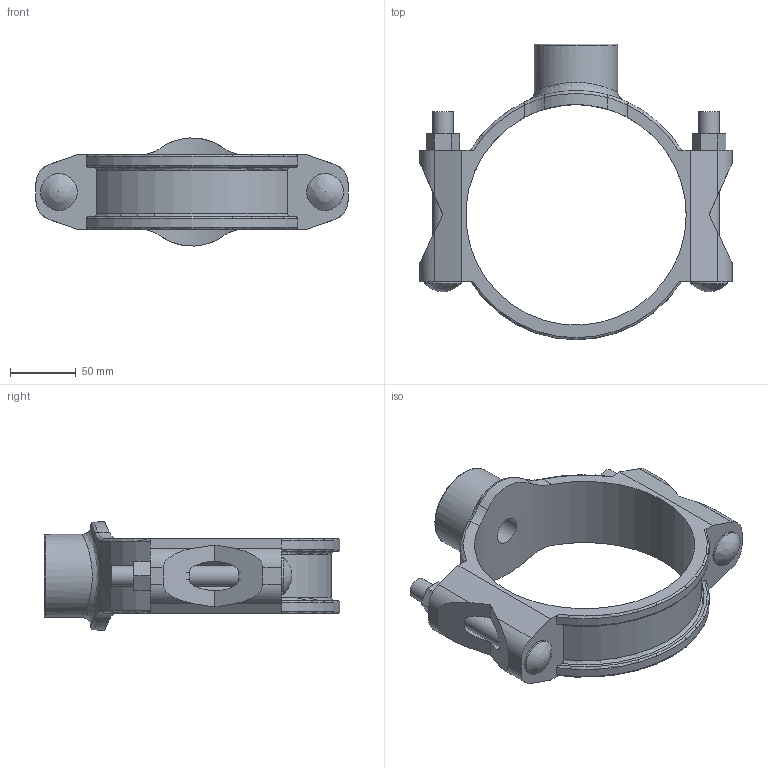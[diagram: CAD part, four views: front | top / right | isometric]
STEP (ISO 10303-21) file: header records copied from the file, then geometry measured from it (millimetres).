
FILE_DESCRIPTION(/* description */ ('VIC SS MECHANICAL T BRANCH OUTLET STYLE 422 (BSPT)','CAx-IF Rec.Pracs.---Representation and Presentation of Product Manufacturing Information (PMI)---4.0---2014-10-13'),/* implementation_level */ '2;1');
FILE_NAME(/* name */ 'C:\Files for Export\422\STEP\Victaulic_SS-OGS_Mech-Tee Out_Style 422 (BSPT)\Victaulic_SS-OGS_Mech-Tee Out_Style 422 (BSPT)_06.0x01.0 (150x25).stp',/* time_stamp */ '2023-03-28T14:27:01+02:00',/* author */ ('jheald'),/* organization */ ('Victaulic'),/* preprocessor_version */ 'ST-DEVELOPER v18.1',/* originating_system */ 'Autodesk Inventor 2020',/* authorisation */ '');
FILE_SCHEMA (('AP242_MANAGED_MODEL_BASED_3D_ENGINEERING_MIM_LF { 1 0 10303 442 1 1 4 }'));
Length unit declared in the file: inch
Products named in the file (1): 422-06.0x01.0
Bounding box: 238.25 x 225.55 x 82.47 mm (x, y, z)
Volume: 617939.9 mm3; surface area: 126805.1 mm2
Topology: 1 solids, 1 shells, 100 faces, 290 edges, 192 vertices
Faces by surface type: plane 48, cylinder 32, torus 11, bspline 9
Full cylindrical faces by diameter (mm): 15.875 x4, 20.93 x1, 27.94 x2, 33.401 x1, 63.5 x1, 168.275 x1
Entity records: 4166 total; most frequent: CARTESIAN_POINT 1298, ORIENTED_EDGE 576, DIRECTION 562, EDGE_CURVE 288, AXIS2_PLACEMENT_3D 206, VERTEX_POINT 192, LINE 150, VECTOR 150
